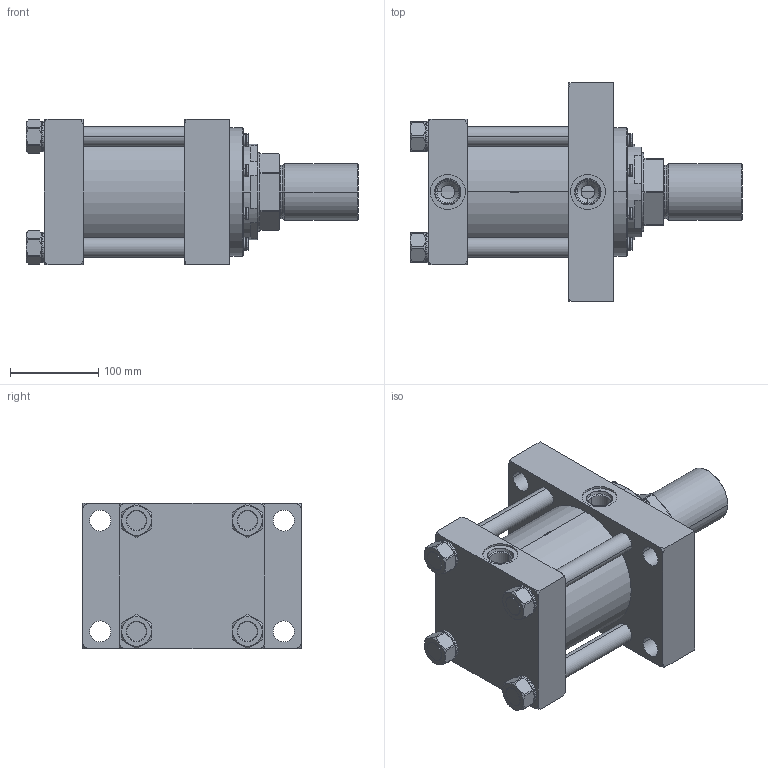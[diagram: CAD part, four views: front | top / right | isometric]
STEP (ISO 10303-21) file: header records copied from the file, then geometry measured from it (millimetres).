
FILE_DESCRIPTION (( 'STEP AP214' ), '1' );
FILE_NAME ('5.00JJ2HHNAT124A2.000.step', '2026-03-26T21:19:01', ( '' ), ( '' ), 'SwSTEP 2.0', 'SolidWorks 2023', '' );
FILE_SCHEMA (( 'AUTOMOTIVE_DESIGN' ));
Length unit declared in the file: inch
Products named in the file (1): 5.00JJ2HHNAT124A2.000
Bounding box: 376.24 x 247.65 x 165.1 mm (x, y, z)
Volume: 5577146.1 mm3; surface area: 680235.4 mm2
Topology: 40 solids, 40 shells, 1598 faces, 4149 edges, 2642 vertices
Faces by surface type: plane 818, cylinder 513, cone 229, bspline 30, torus 8
Entity records: 73639 total; most frequent: CARTESIAN_POINT 14052, ORIENTED_EDGE 8218, DIRECTION 7895, EDGE_CURVE 4109, AXIS2_PLACEMENT_3D 3041, VERTEX_POINT 2642, VECTOR 1813, LINE 1813
